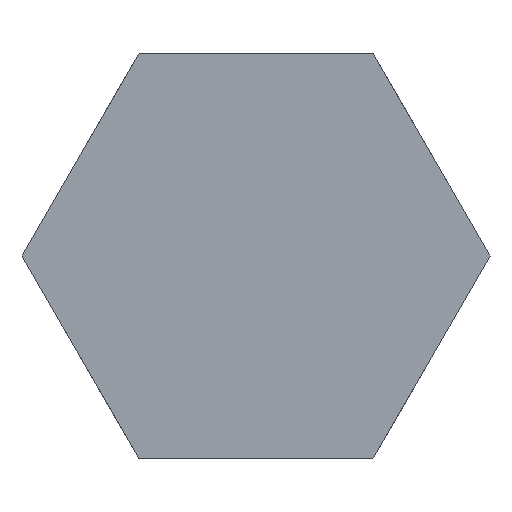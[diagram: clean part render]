
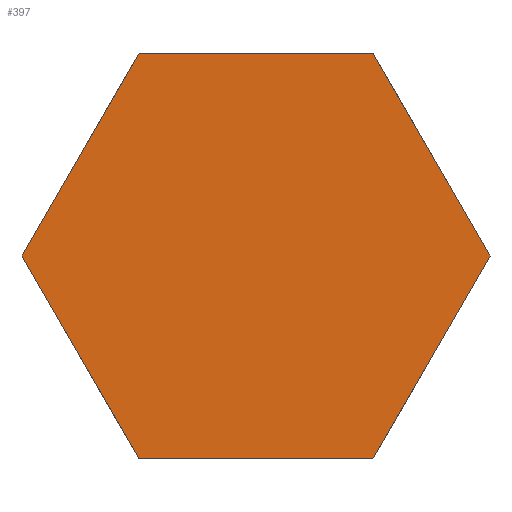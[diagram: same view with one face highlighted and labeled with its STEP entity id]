
A CAD part, front view. The second image highlights one B-rep face of the part: STEP entity #397.
In plain terms, the highlighted planar face has unit normal (0, -1, 0) as drawn and (0, 1, 0) by its records, which use the part's own axes.
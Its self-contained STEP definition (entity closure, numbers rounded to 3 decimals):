
#16 = EDGE_CURVE ( 'NONE', #784, #739, #151, .T. ) ;
#17 = EDGE_CURVE ( 'NONE', #785, #753, #176, .T. ) ;
#18 = EDGE_CURVE ( 'NONE', #758, #785, #95, .T. ) ;
#26 = EDGE_CURVE ( 'NONE', #753, #755, #117, .T. ) ;
#88 = CARTESIAN_POINT ( 'NONE',  ( -4.907, 6.4, -8.5 ) ) ;
#89 = CARTESIAN_POINT ( 'NONE',  ( -9.815, 6.4, 0. ) ) ;
#90 = DIRECTION ( 'NONE',  ( -0.5, 0., -0.866 ) ) ;
#95 = LINE ( 'NONE', #88, #663 ) ;
#97 = DIRECTION ( 'NONE',  ( 0.5, 0., 0.866 ) ) ;
#100 = DIRECTION ( 'NONE',  ( -0.5, 0., 0.866 ) ) ;
#117 = LINE ( 'NONE', #328, #661 ) ;
#151 = LINE ( 'NONE', #156, #639 ) ;
#156 = CARTESIAN_POINT ( 'NONE',  ( 9.815, 6.4, 0. ) ) ;
#176 = LINE ( 'NONE', #89, #669 ) ;
#328 = CARTESIAN_POINT ( 'NONE',  ( -4.907, 6.4, 8.5 ) ) ;
#334 = DIRECTION ( 'NONE',  ( 1., 0., 0. ) ) ;
#397 = ADVANCED_FACE ( 'NONE', ( #1286 ), #1289, .T. ) ;
#458 = EDGE_CURVE ( 'NONE', #755, #784, #1234, .T. ) ;
#483 = EDGE_CURVE ( 'NONE', #739, #758, #1617, .T. ) ;
#591 = AXIS2_PLACEMENT_3D ( 'NONE', #1327, #1299, #1348 ) ;
#593 = VECTOR ( 'NONE', #1227, 1000. ) ;
#639 = VECTOR ( 'NONE', #90, 1000. ) ;
#661 = VECTOR ( 'NONE', #334, 1000. ) ;
#663 = VECTOR ( 'NONE', #100, 1000. ) ;
#669 = VECTOR ( 'NONE', #97, 1000. ) ;
#720 = ORIENTED_EDGE ( 'NONE', *, *, #458, .T. ) ;
#739 = VERTEX_POINT ( 'NONE', #1558 ) ;
#753 = VERTEX_POINT ( 'NONE', #1449 ) ;
#755 = VERTEX_POINT ( 'NONE', #1534 ) ;
#758 = VERTEX_POINT ( 'NONE', #1579 ) ;
#784 = VERTEX_POINT ( 'NONE', #1498 ) ;
#785 = VERTEX_POINT ( 'NONE', #1470 ) ;
#819 = ORIENTED_EDGE ( 'NONE', *, *, #26, .T. ) ;
#823 = ORIENTED_EDGE ( 'NONE', *, *, #483, .T. ) ;
#828 = ORIENTED_EDGE ( 'NONE', *, *, #18, .T. ) ;
#928 = EDGE_LOOP ( 'NONE', ( #828, #951, #819, #720, #962, #823 ) ) ;
#951 = ORIENTED_EDGE ( 'NONE', *, *, #17, .T. ) ;
#962 = ORIENTED_EDGE ( 'NONE', *, *, #16, .T. ) ;
#1227 = DIRECTION ( 'NONE',  ( 0.5, 0., -0.866 ) ) ;
#1234 = LINE ( 'NONE', #1345, #593 ) ;
#1286 = FACE_OUTER_BOUND ( 'NONE', #928, .T. ) ;
#1289 = PLANE ( 'NONE',  #591 ) ;
#1299 = DIRECTION ( 'NONE',  ( 0., 1., 0. ) ) ;
#1327 = CARTESIAN_POINT ( 'NONE',  ( -9.815, 6.4, 0. ) ) ;
#1345 = CARTESIAN_POINT ( 'NONE',  ( 4.907, 6.4, 8.5 ) ) ;
#1348 = DIRECTION ( 'NONE',  ( 0., 0., 1. ) ) ;
#1449 = CARTESIAN_POINT ( 'NONE',  ( -4.907, 6.4, 8.5 ) ) ;
#1470 = CARTESIAN_POINT ( 'NONE',  ( -9.815, 6.4, 0. ) ) ;
#1498 = CARTESIAN_POINT ( 'NONE',  ( 9.815, 6.4, 0. ) ) ;
#1534 = CARTESIAN_POINT ( 'NONE',  ( 4.907, 6.4, 8.5 ) ) ;
#1558 = CARTESIAN_POINT ( 'NONE',  ( 4.907, 6.4, -8.5 ) ) ;
#1579 = CARTESIAN_POINT ( 'NONE',  ( -4.907, 6.4, -8.5 ) ) ;
#1617 = LINE ( 'NONE', #1619, #1680 ) ;
#1619 = CARTESIAN_POINT ( 'NONE',  ( 4.907, 6.4, -8.5 ) ) ;
#1620 = DIRECTION ( 'NONE',  ( -1., 0., 0. ) ) ;
#1680 = VECTOR ( 'NONE', #1620, 1000. ) ;
